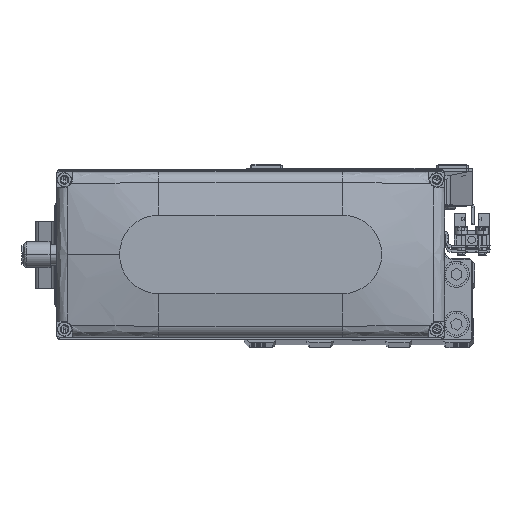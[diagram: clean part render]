
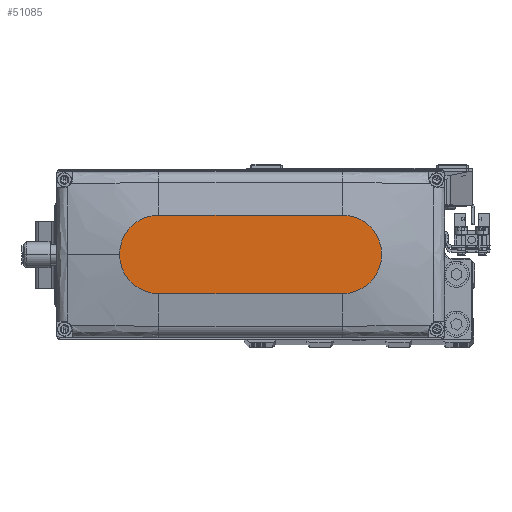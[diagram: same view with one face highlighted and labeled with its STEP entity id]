
A CAD part, top view. The second image highlights one B-rep face of the part: STEP entity #51085.
In plain terms, the highlighted planar face has unit normal (0, 0, 1).
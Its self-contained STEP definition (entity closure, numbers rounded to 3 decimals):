
#1759 = VECTOR ( 'NONE', #9870, 1000. ) ;
#2513 = DIRECTION ( 'NONE',  ( -1., 0., 0. ) ) ;
#3907 = ORIENTED_EDGE ( 'NONE', *, *, #50176, .T. ) ;
#4390 = CARTESIAN_POINT ( 'NONE',  ( 50., 0., 35. ) ) ;
#5146 = DIRECTION ( 'NONE',  ( 1., 0., 0. ) ) ;
#5724 = CARTESIAN_POINT ( 'NONE',  ( 35., 15., 35. ) ) ;
#6292 = AXIS2_PLACEMENT_3D ( 'NONE', #26555, #42383, #6883 ) ;
#6883 = DIRECTION ( 'NONE',  ( 1., 0., 0. ) ) ;
#9823 = ORIENTED_EDGE ( 'NONE', *, *, #33732, .T. ) ;
#9870 = DIRECTION ( 'NONE',  ( 1., 0., 0. ) ) ;
#10243 = CARTESIAN_POINT ( 'NONE',  ( 0., 0., 35. ) ) ;
#14903 = ORIENTED_EDGE ( 'NONE', *, *, #17412, .T. ) ;
#14913 = CARTESIAN_POINT ( 'NONE',  ( 35., -15., 35. ) ) ;
#15588 = CIRCLE ( 'NONE', #44576, 15. ) ;
#16436 = VERTEX_POINT ( 'NONE', #5724 ) ;
#16749 = CARTESIAN_POINT ( 'NONE',  ( -35., 0., 35. ) ) ;
#17164 = VERTEX_POINT ( 'NONE', #42737 ) ;
#17412 = EDGE_CURVE ( 'NONE', #34483, #16436, #15588, .T. ) ;
#18651 = AXIS2_PLACEMENT_3D ( 'NONE', #16749, #32560, #48362 ) ;
#20724 = VECTOR ( 'NONE', #2513, 1000. ) ;
#22208 = LINE ( 'NONE', #38025, #20724 ) ;
#24836 = CARTESIAN_POINT ( 'NONE',  ( 35., 0., 35. ) ) ;
#25292 = VERTEX_POINT ( 'NONE', #46483 ) ;
#25953 = EDGE_LOOP ( 'NONE', ( #38846, #9823, #3907, #36745, #14903 ) ) ;
#26037 = DIRECTION ( 'NONE',  ( 0., 0., 1. ) ) ;
#26555 = CARTESIAN_POINT ( 'NONE',  ( 35., 0., 35. ) ) ;
#28621 = CIRCLE ( 'NONE', #6292, 15. ) ;
#29553 = LINE ( 'NONE', #45365, #1759 ) ;
#29929 = FACE_OUTER_BOUND ( 'NONE', #25953, .T. ) ;
#32558 = EDGE_CURVE ( 'NONE', #43040, #34483, #28621, .T. ) ;
#32560 = DIRECTION ( 'NONE',  ( 0., 0., 1. ) ) ;
#33732 = EDGE_CURVE ( 'NONE', #17164, #25292, #41025, .T. ) ;
#34483 = VERTEX_POINT ( 'NONE', #4390 ) ;
#36745 = ORIENTED_EDGE ( 'NONE', *, *, #32558, .T. ) ;
#38025 = CARTESIAN_POINT ( 'NONE',  ( -35., 15., 35. ) ) ;
#38846 = ORIENTED_EDGE ( 'NONE', *, *, #49461, .T. ) ;
#40649 = DIRECTION ( 'NONE',  ( 0., 0., 1. ) ) ;
#41025 = CIRCLE ( 'NONE', #18651, 15. ) ;
#41866 = DIRECTION ( 'NONE',  ( 1., 0., 0. ) ) ;
#42383 = DIRECTION ( 'NONE',  ( 0., 0., 1. ) ) ;
#42737 = CARTESIAN_POINT ( 'NONE',  ( -35., 15., 35. ) ) ;
#43040 = VERTEX_POINT ( 'NONE', #14913 ) ;
#44048 = AXIS2_PLACEMENT_3D ( 'NONE', #10243, #26037, #41866 ) ;
#44576 = AXIS2_PLACEMENT_3D ( 'NONE', #24836, #40649, #5146 ) ;
#45365 = CARTESIAN_POINT ( 'NONE',  ( -35., -15., 35. ) ) ;
#45743 = PLANE ( 'NONE',  #44048 ) ;
#46483 = CARTESIAN_POINT ( 'NONE',  ( -35., -15., 35. ) ) ;
#48362 = DIRECTION ( 'NONE',  ( 1., 0., 0. ) ) ;
#49461 = EDGE_CURVE ( 'NONE', #16436, #17164, #22208, .T. ) ;
#50176 = EDGE_CURVE ( 'NONE', #25292, #43040, #29553, .T. ) ;
#51085 = ADVANCED_FACE ( 'NONE', ( #29929 ), #45743, .T. ) ;
